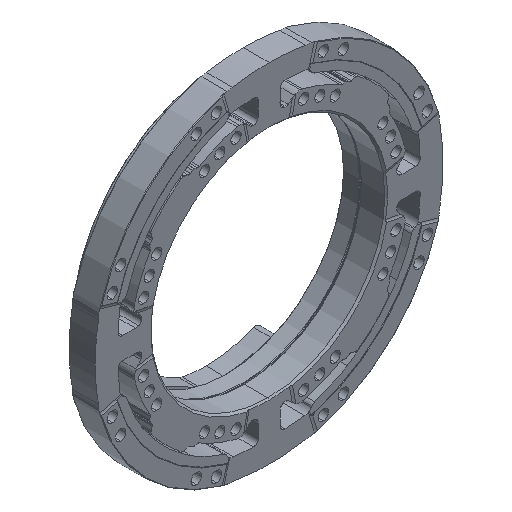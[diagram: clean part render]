
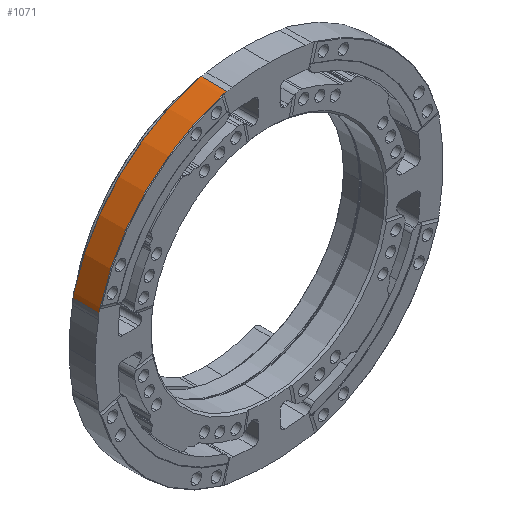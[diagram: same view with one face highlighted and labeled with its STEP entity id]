
A CAD part, isometric view. The second image highlights one B-rep face of the part: STEP entity #1071.
In plain terms, the highlighted cylindrical face has radius 171.45 mm (diameter 342.9 mm), a partial arc.
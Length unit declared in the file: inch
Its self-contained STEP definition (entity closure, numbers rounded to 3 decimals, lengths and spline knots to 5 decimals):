
#31 = EDGE_CURVE ( 'NONE', #13159, #7086, #6334, .T. ) ;
#101 = EDGE_LOOP ( 'NONE', ( #3459, #7179, #9305, #14339, #11224, #11475, #19524, #9563, #17757, #13558, #11709, #12852 ) ) ;
#506 = DIRECTION ( 'NONE',  ( 0., -1., 0. ) ) ;
#599 = CARTESIAN_POINT ( 'NONE',  ( -1.74202, 0.5, 6.52134 ) ) ;
#615 = EDGE_CURVE ( 'NONE', #10338, #7715, #7027, .T. ) ;
#670 = CIRCLE ( 'NONE', #6088, 6.75 ) ;
#1071 = ADVANCED_FACE ( 'NONE', ( #18879 ), #15534, .T. ) ;
#1072 = CARTESIAN_POINT ( 'NONE',  ( -6.52134, -0.5, 1.74202 ) ) ;
#1188 = VERTEX_POINT ( 'NONE', #4775 ) ;
#1451 = VECTOR ( 'NONE', #12848, 39.37008 ) ;
#1790 = DIRECTION ( 'NONE',  ( 0., 0., 1. ) ) ;
#1923 = CARTESIAN_POINT ( 'NONE',  ( -6.51011, -0.505, 1.78354 ) ) ;
#2003 = AXIS2_PLACEMENT_3D ( 'NONE', #12578, #18566, #15744 ) ;
#2251 = VERTEX_POINT ( 'NONE', #19410 ) ;
#2486 = CIRCLE ( 'NONE', #4840, 6.75 ) ;
#2871 = EDGE_CURVE ( 'NONE', #20442, #7457, #670, .T. ) ;
#3047 = CARTESIAN_POINT ( 'NONE',  ( -1.625, -0.525, 6.55148 ) ) ;
#3459 = ORIENTED_EDGE ( 'NONE', *, *, #2871, .F. ) ;
#3579 = CARTESIAN_POINT ( 'NONE',  ( 0., -0.5, 0. ) ) ;
#3638 = CARTESIAN_POINT ( 'NONE',  ( -6.51384, 0.50167, 1.7699 ) ) ;
#3695 = EDGE_CURVE ( 'NONE', #17909, #7457, #15262, .T. ) ;
#3891 = CARTESIAN_POINT ( 'NONE',  ( -1.7699, 0.50167, 6.51384 ) ) ;
#4410 = DIRECTION ( 'NONE',  ( 0., 1., 0. ) ) ;
#4652 = EDGE_CURVE ( 'NONE', #13159, #11289, #14599, .T. ) ;
#4775 = CARTESIAN_POINT ( 'NONE',  ( -6.52134, 0.5, 1.74202 ) ) ;
#4840 = AXIS2_PLACEMENT_3D ( 'NONE', #19211, #16392, #14591 ) ;
#5564 = DIRECTION ( 'NONE',  ( 1., 0., 0. ) ) ;
#5686 = AXIS2_PLACEMENT_3D ( 'NONE', #8621, #15031, #5564 ) ;
#5700 = CARTESIAN_POINT ( 'NONE',  ( -1.78354, 0.505, 6.51011 ) ) ;
#5828 = CARTESIAN_POINT ( 'NONE',  ( -1.74202, -0.5, 6.52134 ) ) ;
#5850 = CIRCLE ( 'NONE', #17602, 6.75 ) ;
#5889 = CARTESIAN_POINT ( 'NONE',  ( -6.51384, -0.50167, 1.7699 ) ) ;
#5942 = CARTESIAN_POINT ( 'NONE',  ( 0., 0.505, 0. ) ) ;
#6088 = AXIS2_PLACEMENT_3D ( 'NONE', #16909, #18176, #8718 ) ;
#6334 = CIRCLE ( 'NONE', #19433, 6.75 ) ;
#6434 = EDGE_CURVE ( 'NONE', #7715, #2251, #17981, .T. ) ;
#7027 = CIRCLE ( 'NONE', #5686, 6.75 ) ;
#7086 = VERTEX_POINT ( 'NONE', #15412 ) ;
#7104 = CARTESIAN_POINT ( 'NONE',  ( -1.75606, -0.5, 6.51759 ) ) ;
#7129 = CARTESIAN_POINT ( 'NONE',  ( -6.51759, 0.5, 1.75606 ) ) ;
#7179 = ORIENTED_EDGE ( 'NONE', *, *, #14513, .T. ) ;
#7199 = CARTESIAN_POINT ( 'NONE',  ( -1.625, -0.5, 6.55148 ) ) ;
#7457 = VERTEX_POINT ( 'NONE', #18737 ) ;
#7715 = VERTEX_POINT ( 'NONE', #599 ) ;
#8332 = CARTESIAN_POINT ( 'NONE',  ( -1.74202, 0.5, 6.52134 ) ) ;
#8512 = AXIS2_PLACEMENT_3D ( 'NONE', #5942, #12241, #14031 ) ;
#8621 = CARTESIAN_POINT ( 'NONE',  ( 0., 0.5, 0. ) ) ;
#8718 = DIRECTION ( 'NONE',  ( 1., 0., 0. ) ) ;
#9191 = EDGE_CURVE ( 'NONE', #20123, #2251, #13887, .T. ) ;
#9305 = ORIENTED_EDGE ( 'NONE', *, *, #615, .T. ) ;
#9373 = CARTESIAN_POINT ( 'NONE',  ( 0., -0.505, 0. ) ) ;
#9563 = ORIENTED_EDGE ( 'NONE', *, *, #19109, .F. ) ;
#9580 = VECTOR ( 'NONE', #16483, 39.37008 ) ;
#9726 = EDGE_CURVE ( 'NONE', #11289, #17909, #5850, .T. ) ;
#10338 = VERTEX_POINT ( 'NONE', #13789 ) ;
#10915 = EDGE_CURVE ( 'NONE', #1188, #17769, #2486, .T. ) ;
#11066 = LINE ( 'NONE', #3047, #1451 ) ;
#11224 = ORIENTED_EDGE ( 'NONE', *, *, #9191, .F. ) ;
#11289 = VERTEX_POINT ( 'NONE', #1923 ) ;
#11423 = CARTESIAN_POINT ( 'NONE',  ( -6.55148, -0.525, 1.625 ) ) ;
#11475 = ORIENTED_EDGE ( 'NONE', *, *, #14977, .T. ) ;
#11709 = ORIENTED_EDGE ( 'NONE', *, *, #9726, .T. ) ;
#11771 = CARTESIAN_POINT ( 'NONE',  ( -1.78354, -0.505, 6.51011 ) ) ;
#12241 = DIRECTION ( 'NONE',  ( 0., 1., 0. ) ) ;
#12293 = CARTESIAN_POINT ( 'NONE',  ( -6.51011, -0.505, 1.78354 ) ) ;
#12526 = DIRECTION ( 'NONE',  ( 0., 0., 1. ) ) ;
#12578 = CARTESIAN_POINT ( 'NONE',  ( 0., 0.5896, 0. ) ) ;
#12848 = DIRECTION ( 'NONE',  ( 0., 1., 0. ) ) ;
#12852 = ORIENTED_EDGE ( 'NONE', *, *, #3695, .T. ) ;
#13159 = VERTEX_POINT ( 'NONE', #1072 ) ;
#13558 = ORIENTED_EDGE ( 'NONE', *, *, #4652, .T. ) ;
#13789 = CARTESIAN_POINT ( 'NONE',  ( -1.625, 0.5, 6.55148 ) ) ;
#13868 = CARTESIAN_POINT ( 'NONE',  ( -6.51759, -0.5, 1.75606 ) ) ;
#13887 = CIRCLE ( 'NONE', #8512, 6.75 ) ;
#14031 = DIRECTION ( 'NONE',  ( 0., 0., 1. ) ) ;
#14339 = ORIENTED_EDGE ( 'NONE', *, *, #6434, .T. ) ;
#14513 = EDGE_CURVE ( 'NONE', #20442, #10338, #11066, .T. ) ;
#14591 = DIRECTION ( 'NONE',  ( 0., 0., 1. ) ) ;
#14599 = B_SPLINE_CURVE_WITH_KNOTS ( 'NONE', 3,
 ( #18599, #13868, #5889, #12293 ),
 .UNSPECIFIED., .F., .F.,
 ( 4, 4 ),
 ( 0., 0.0011 ),
 .UNSPECIFIED. ) ;
#14610 = CARTESIAN_POINT ( 'NONE',  ( -6.55148, 0.5, 1.625 ) ) ;
#14750 = CARTESIAN_POINT ( 'NONE',  ( -1.75606, 0.5, 6.51759 ) ) ;
#14977 = EDGE_CURVE ( 'NONE', #20123, #1188, #17858, .T. ) ;
#15031 = DIRECTION ( 'NONE',  ( 0., -1., 0. ) ) ;
#15262 = B_SPLINE_CURVE_WITH_KNOTS ( 'NONE', 3,
 ( #18233, #16978, #7104, #5828 ),
 .UNSPECIFIED., .F., .F.,
 ( 4, 4 ),
 ( 0., 0.0011 ),
 .UNSPECIFIED. ) ;
#15412 = CARTESIAN_POINT ( 'NONE',  ( -6.55148, -0.5, 1.625 ) ) ;
#15534 = CYLINDRICAL_SURFACE ( 'NONE', #2003, 6.75 ) ;
#15744 = DIRECTION ( 'NONE',  ( 0., 0., 1. ) ) ;
#16392 = DIRECTION ( 'NONE',  ( 0., -1., 0. ) ) ;
#16483 = DIRECTION ( 'NONE',  ( 0., 1., 0. ) ) ;
#16909 = CARTESIAN_POINT ( 'NONE',  ( 0., -0.5, 0. ) ) ;
#16978 = CARTESIAN_POINT ( 'NONE',  ( -1.7699, -0.50167, 6.51384 ) ) ;
#17602 = AXIS2_PLACEMENT_3D ( 'NONE', #9373, #4410, #12526 ) ;
#17757 = ORIENTED_EDGE ( 'NONE', *, *, #31, .F. ) ;
#17769 = VERTEX_POINT ( 'NONE', #14610 ) ;
#17858 = B_SPLINE_CURVE_WITH_KNOTS ( 'NONE', 3,
 ( #18064, #3638, #7129, #18686 ),
 .UNSPECIFIED., .F., .F.,
 ( 4, 4 ),
 ( 0., 0.0011 ),
 .UNSPECIFIED. ) ;
#17909 = VERTEX_POINT ( 'NONE', #11771 ) ;
#17981 = B_SPLINE_CURVE_WITH_KNOTS ( 'NONE', 3,
 ( #8332, #14750, #3891, #5700 ),
 .UNSPECIFIED., .F., .F.,
 ( 4, 4 ),
 ( 0., 0.0011 ),
 .UNSPECIFIED. ) ;
#18064 = CARTESIAN_POINT ( 'NONE',  ( -6.51011, 0.505, 1.78354 ) ) ;
#18176 = DIRECTION ( 'NONE',  ( 0., -1., 0. ) ) ;
#18233 = CARTESIAN_POINT ( 'NONE',  ( -1.78354, -0.505, 6.51011 ) ) ;
#18566 = DIRECTION ( 'NONE',  ( 0., 1., 0. ) ) ;
#18599 = CARTESIAN_POINT ( 'NONE',  ( -6.52134, -0.5, 1.74202 ) ) ;
#18686 = CARTESIAN_POINT ( 'NONE',  ( -6.52134, 0.5, 1.74202 ) ) ;
#18737 = CARTESIAN_POINT ( 'NONE',  ( -1.74202, -0.5, 6.52134 ) ) ;
#18879 = FACE_OUTER_BOUND ( 'NONE', #101, .T. ) ;
#19109 = EDGE_CURVE ( 'NONE', #7086, #17769, #19416, .T. ) ;
#19211 = CARTESIAN_POINT ( 'NONE',  ( 0., 0.5, 0. ) ) ;
#19410 = CARTESIAN_POINT ( 'NONE',  ( -1.78354, 0.505, 6.51011 ) ) ;
#19416 = LINE ( 'NONE', #11423, #9580 ) ;
#19433 = AXIS2_PLACEMENT_3D ( 'NONE', #3579, #506, #1790 ) ;
#19524 = ORIENTED_EDGE ( 'NONE', *, *, #10915, .T. ) ;
#20123 = VERTEX_POINT ( 'NONE', #20496 ) ;
#20442 = VERTEX_POINT ( 'NONE', #7199 ) ;
#20496 = CARTESIAN_POINT ( 'NONE',  ( -6.51011, 0.505, 1.78354 ) ) ;
